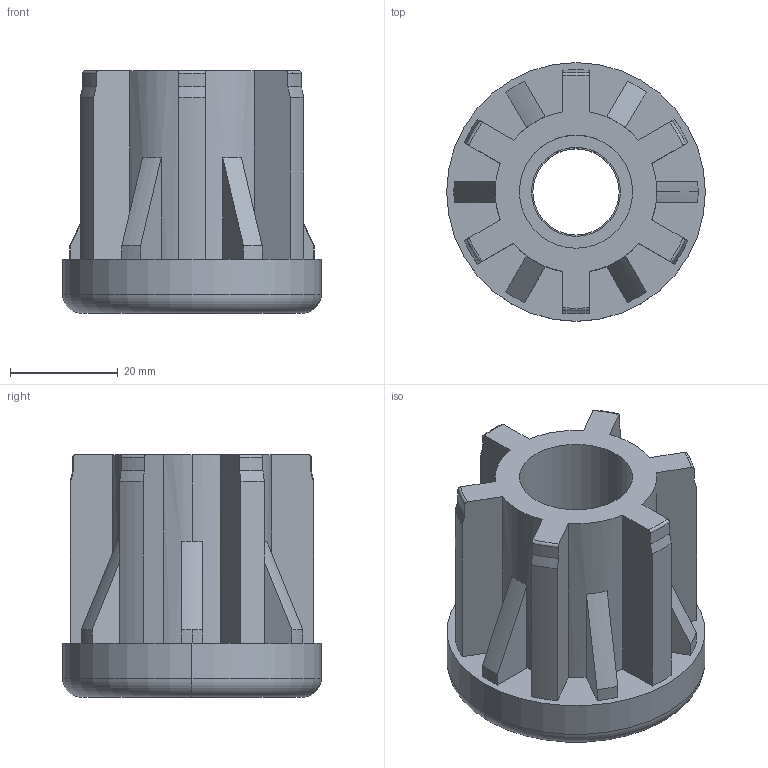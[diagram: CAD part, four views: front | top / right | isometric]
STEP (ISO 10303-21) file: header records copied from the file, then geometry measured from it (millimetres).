
FILE_DESCRIPTION (( 'STEP AP214' ), '1' );
FILE_NAME ('42006448216.STEP', '2020-02-25T17:26:12', ( '' ), ( '' ), 'SwSTEP 2.0', 'SolidWorks 2018', '' );
FILE_SCHEMA (( 'AUTOMOTIVE_DESIGN' ));
Length unit declared in the file: millimetre
Products named in the file (1): 42006448216
Bounding box: 48 x 48 x 45 mm (x, y, z)
Volume: 40160.3 mm3; surface area: 16354.9 mm2
Topology: 2 solids, 2 shells, 93 faces, 253 edges, 167 vertices
Faces by surface type: cylinder 39, plane 31, cone 15, torus 8
Entity records: 3243 total; most frequent: CARTESIAN_POINT 808, DIRECTION 508, ORIENTED_EDGE 506, EDGE_CURVE 253, AXIS2_PLACEMENT_3D 197, VERTEX_POINT 167, LINE 114, VECTOR 114
